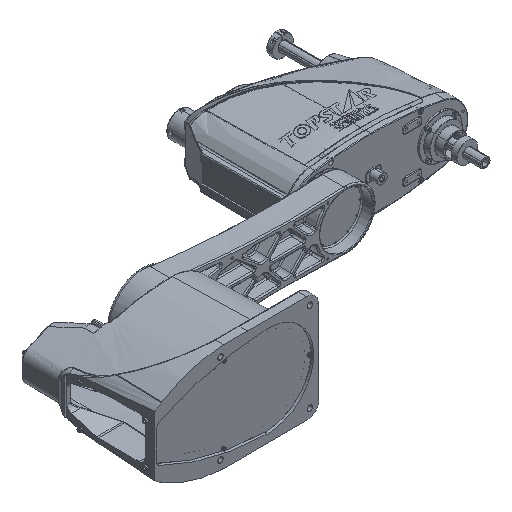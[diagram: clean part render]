
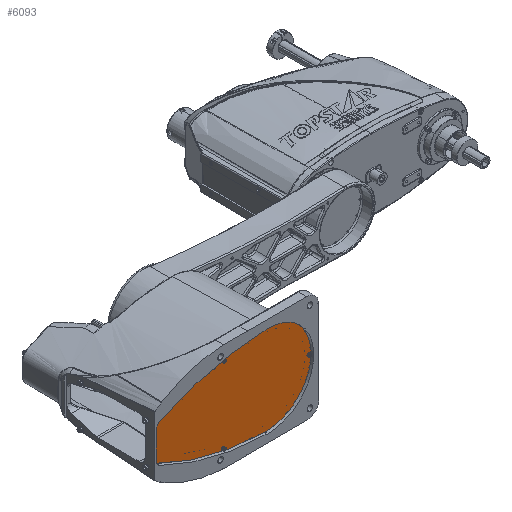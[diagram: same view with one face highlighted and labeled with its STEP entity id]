
A CAD part, isometric view. The second image highlights one B-rep face of the part: STEP entity #6093.
In plain terms, the highlighted planar face has unit normal (0, -1, 0) as drawn and (0, 0, -1) by its records, which use the part's own axes.
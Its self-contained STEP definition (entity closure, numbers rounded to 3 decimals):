
#6093=ADVANCED_FACE('NONE',(#14100,#14101,#14102,#14103),#14104,.F.);
#14100=FACE_OUTER_BOUND('',#34557,.T.);
#14101=FACE_BOUND('',#34558,.T.);
#14102=FACE_BOUND('',#34559,.T.);
#14103=FACE_BOUND('',#34560,.T.);
#14104=PLANE('',#34561);
#34557=EDGE_LOOP('',(#74282,#74283,#74284,#74285,#74286,#74287,#74288));
#34558=EDGE_LOOP('',(#74289,#74290));
#34559=EDGE_LOOP('',(#74291,#74292));
#34560=EDGE_LOOP('',(#74293,#74294));
#34561=AXIS2_PLACEMENT_3D('',#74295,#74296,#74297);
#74282=ORIENTED_EDGE('',*,*,#97946,.F.);
#74283=ORIENTED_EDGE('',*,*,#97948,.T.);
#74284=ORIENTED_EDGE('',*,*,#97934,.F.);
#74285=ORIENTED_EDGE('',*,*,#97937,.F.);
#74286=ORIENTED_EDGE('',*,*,#97904,.F.);
#74287=ORIENTED_EDGE('',*,*,#97940,.F.);
#74288=ORIENTED_EDGE('',*,*,#97943,.F.);
#74289=ORIENTED_EDGE('',*,*,#97950,.T.);
#74290=ORIENTED_EDGE('',*,*,#97908,.T.);
#74291=ORIENTED_EDGE('',*,*,#97952,.T.);
#74292=ORIENTED_EDGE('',*,*,#97913,.T.);
#74293=ORIENTED_EDGE('',*,*,#97954,.T.);
#74294=ORIENTED_EDGE('',*,*,#97918,.T.);
#74295=CARTESIAN_POINT('',(8.994,-353.386,0.0));
#74296=DIRECTION('',(0.0,0.0,1.0));
#74297=DIRECTION('',(1.0,0.0,0.0));
#97904=EDGE_CURVE('NONE',#111673,#111676,#111677,.T.);
#97908=EDGE_CURVE('NONE',#111682,#111683,#111684,.T.);
#97913=EDGE_CURVE('NONE',#111691,#111692,#111693,.T.);
#97918=EDGE_CURVE('NONE',#111700,#111701,#111702,.T.);
#97934=EDGE_CURVE('NONE',#111724,#111726,#111727,.T.);
#97937=EDGE_CURVE('NONE',#111676,#111724,#111730,.T.);
#97940=EDGE_CURVE('NONE',#111732,#111673,#111734,.T.);
#97943=EDGE_CURVE('NONE',#111736,#111732,#111738,.T.);
#97946=EDGE_CURVE('NONE',#111740,#111736,#111742,.T.);
#97948=EDGE_CURVE('NONE',#111740,#111726,#111744,.T.);
#97950=EDGE_CURVE('NONE',#111683,#111682,#111746,.T.);
#97952=EDGE_CURVE('NONE',#111692,#111691,#111748,.T.);
#97954=EDGE_CURVE('NONE',#111701,#111700,#111750,.T.);
#111673=VERTEX_POINT('',#147244);
#111676=VERTEX_POINT('NONE',#147248);
#111677=CIRCLE('',#147249,76.0);
#111682=VERTEX_POINT('NONE',#147255);
#111683=VERTEX_POINT('NONE',#147256);
#111684=CIRCLE('',#147257,1.75);
#111691=VERTEX_POINT('NONE',#147266);
#111692=VERTEX_POINT('NONE',#147267);
#111693=CIRCLE('',#147268,1.75);
#111700=VERTEX_POINT('NONE',#147277);
#111701=VERTEX_POINT('NONE',#147278);
#111702=CIRCLE('',#147279,1.75);
#111724=VERTEX_POINT('NONE',#147304);
#111726=VERTEX_POINT('NONE',#147307);
#111727=CIRCLE('',#147308,9.);
#111730=CIRCLE('',#147312,429.5);
#111732=VERTEX_POINT('NONE',#147314);
#111734=CIRCLE('',#147317,76.0);
#111736=VERTEX_POINT('NONE',#147319);
#111738=CIRCLE('',#147322,429.5);
#111740=VERTEX_POINT('NONE',#147324);
#111742=CIRCLE('',#147327,9.);
#111744=LINE('',#147329,#147330);
#111746=CIRCLE('',#147332,1.75);
#111748=CIRCLE('',#147334,1.75);
#111750=CIRCLE('',#147336,1.75);
#147244=CARTESIAN_POINT('',(76.0,0.,0.0));
#147248=CARTESIAN_POINT('',(-1.934,75.975,0.0));
#147249=AXIS2_PLACEMENT_3D('',#251687,#251688,#251689);
#147255=CARTESIAN_POINT('',(-73.75,-64.,0.0));
#147256=CARTESIAN_POINT('',(-70.25,-64.,0.0));
#147257=AXIS2_PLACEMENT_3D('',#251694,#251695,#251696);
#147266=CARTESIAN_POINT('',(70.25,0.,0.0));
#147267=CARTESIAN_POINT('',(73.75,0.0,0.0));
#147268=AXIS2_PLACEMENT_3D('',#251702,#251703,#251704);
#147277=CARTESIAN_POINT('',(-73.75,64.,0.0));
#147278=CARTESIAN_POINT('',(-70.25,64.,0.0));
#147279=AXIS2_PLACEMENT_3D('',#251710,#251711,#251712);
#147304=CARTESIAN_POINT('',(-182.513,31.056,0.0));
#147307=CARTESIAN_POINT('',(-187.5,23.0,0.0));
#147308=AXIS2_PLACEMENT_3D('',#251744,#251745,#251746);
#147312=AXIS2_PLACEMENT_3D('',#251748,#251749,#251750);
#147314=CARTESIAN_POINT('',(-1.934,-75.975,0.0));
#147317=AXIS2_PLACEMENT_3D('',#251752,#251753,#251754);
#147319=CARTESIAN_POINT('',(-182.513,-31.056,0.0));
#147322=AXIS2_PLACEMENT_3D('',#251756,#251757,#251758);
#147324=CARTESIAN_POINT('',(-187.5,-23.0,0.0));
#147327=AXIS2_PLACEMENT_3D('',#251760,#251761,#251762);
#147329=CARTESIAN_POINT('',(-187.5,23.0,0.0));
#147330=VECTOR('',#251763,1000.0);
#147332=AXIS2_PLACEMENT_3D('',#251764,#251765,#251766);
#147334=AXIS2_PLACEMENT_3D('',#251767,#251768,#251769);
#147336=AXIS2_PLACEMENT_3D('',#251770,#251771,#251772);
#251687=CARTESIAN_POINT('',(0.0,0.0,0.0));
#251688=DIRECTION('',(0.0,0.0,1.0));
#251689=DIRECTION('',(-1.0,0.0,0.0));
#251694=CARTESIAN_POINT('',(-72.,-64.,0.0));
#251695=DIRECTION('',(0.0,0.0,1.0));
#251696=DIRECTION('',(1.0,0.0,0.0));
#251702=CARTESIAN_POINT('',(72.,0.0,0.0));
#251703=DIRECTION('',(0.0,0.0,1.0));
#251704=DIRECTION('',(1.0,0.0,0.0));
#251710=CARTESIAN_POINT('',(-72.,64.,0.0));
#251711=DIRECTION('',(0.0,0.0,1.0));
#251712=DIRECTION('',(1.0,0.0,0.0));
#251744=CARTESIAN_POINT('',(-178.5,23.0,0.0));
#251745=DIRECTION('',(0.0,0.0,1.0));
#251746=DIRECTION('',(-1.0,0.,0.0));
#251748=CARTESIAN_POINT('',(8.994,-353.386,0.0));
#251749=DIRECTION('',(0.0,0.0,1.0));
#251750=DIRECTION('',(-1.0,0.,0.0));
#251752=CARTESIAN_POINT('',(0.0,0.0,0.0));
#251753=DIRECTION('',(0.0,0.0,1.0));
#251754=DIRECTION('',(-1.0,0.0,0.0));
#251756=CARTESIAN_POINT('',(8.994,353.386,0.0));
#251757=DIRECTION('',(0.0,0.0,1.0));
#251758=DIRECTION('',(-1.0,0.0,0.0));
#251760=CARTESIAN_POINT('',(-178.5,-23.0,0.0));
#251761=DIRECTION('',(0.0,0.0,1.0));
#251762=DIRECTION('',(-1.0,0.0,0.0));
#251763=DIRECTION('',(0.0,1.0,0.0));
#251764=CARTESIAN_POINT('',(-72.,-64.,0.0));
#251765=DIRECTION('',(0.0,0.0,1.0));
#251766=DIRECTION('',(1.0,0.0,0.0));
#251767=CARTESIAN_POINT('',(72.,0.0,0.0));
#251768=DIRECTION('',(0.0,0.0,1.0));
#251769=DIRECTION('',(1.0,0.0,0.0));
#251770=CARTESIAN_POINT('',(-72.,64.,0.0));
#251771=DIRECTION('',(0.0,0.0,1.0));
#251772=DIRECTION('',(1.0,0.0,0.0));
